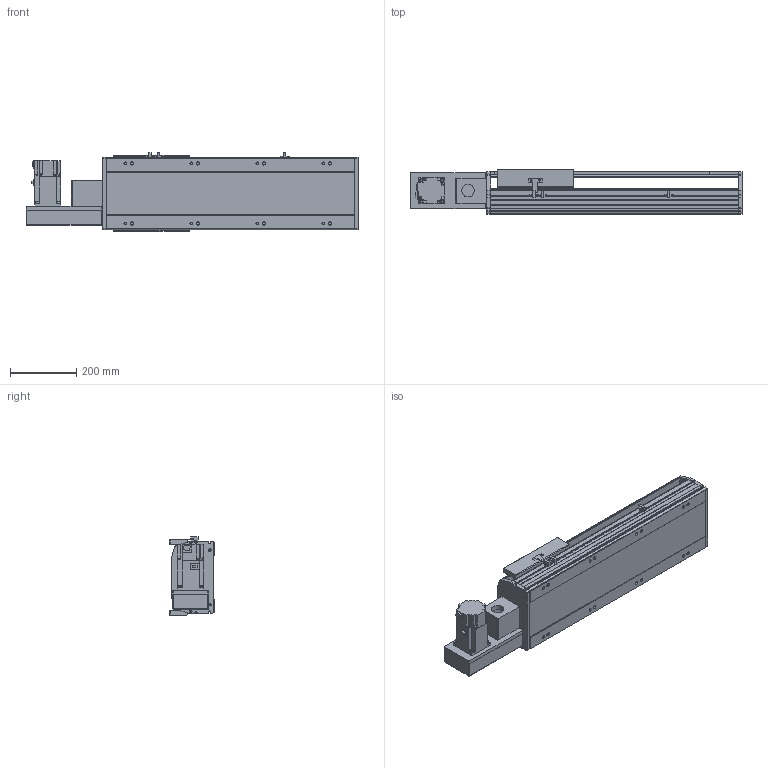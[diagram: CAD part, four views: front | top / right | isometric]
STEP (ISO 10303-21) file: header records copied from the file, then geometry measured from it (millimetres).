
FILE_DESCRIPTION(/* description */ ('STEP AP214'),/* implementation_level */ '2;1');
FILE_NAME(/* name */ 'PBS220-P40-S400-L-T75-C1-N(0)',/* time_stamp */ '2022-06-11T09:54:47+02:00',/* author */ ('License CC BY-ND 4.0'),/* organization */ ('CADENAS'),/* preprocessor_version */ 'ST-DEVELOPER v18.102',/* originating_system */ 'PARTsolutions',/* authorisation */ ' ');
FILE_SCHEMA (('AUTOMOTIVE_DESIGN {1 0 10303 214 3 1 1}'));
Length unit declared in the file: millimetre
Products named in the file (7): PBS220-P40-S400-L-T75-C1-N(0); PBS220_sensor; PBS220_plant; PBS220_sliser; T75-p1; PBS220T-L_motors; PBS220-S400()_body
Assembly tree (8 placements, depth 2):
  PBS220-P40-S400-L-T75-C1-N(0)
    PBS220_sensor  x3
    PBS220_plant
    PBS220_sliser
    T75-p1
    PBS220T-L_motors
    PBS220-S400()_body
Bounding box: 1006 x 134 x 238.5 mm (x, y, z)
Volume: 13382202.8 mm3; surface area: 1410994.2 mm2
Topology: 8 solids, 8 shells, 866 faces, 2284 edges, 1486 vertices
Faces by surface type: plane 582, cylinder 252, cone 32
Full cylindrical faces by diameter (mm): 2.013 x4, 4.5 x14, 4.917 x4, 6 x7, 6.647 x8, 8 x10, 8.376 x8, 8.5 x8, 10 x6, 14 x8, 38 x2, 40 x1, 70 x1
Entity records: 24381 total; most frequent: DIRECTION 4239, CARTESIAN_POINT 4228, ORIENTED_EDGE 3962, EDGE_CURVE 1981, AXIS2_PLACEMENT_3D 1451, VERTEX_POINT 1352, LINE 1337, VECTOR 1337
